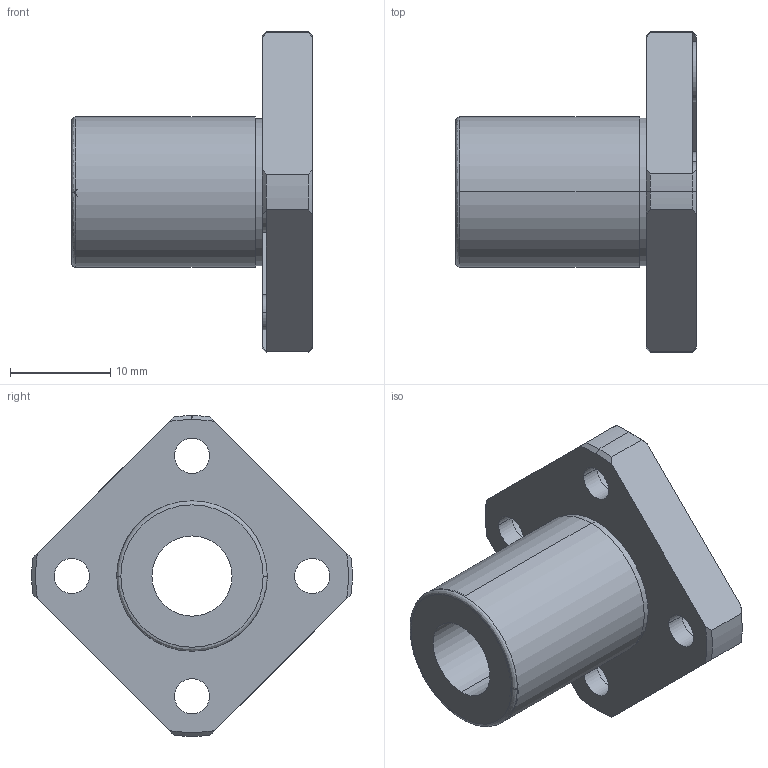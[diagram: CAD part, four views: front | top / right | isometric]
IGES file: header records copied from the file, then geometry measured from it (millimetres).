
Start section: 3D InterOp IGES (Version 21 0 1), Spatial Corp. Copyright (c) 1999-2007.
Global section: file name: NF-8TVUU.igs; native system: Spatial Corp.; preprocessor: 3D InterOp GENERIC/IGES 3.0; author: Noname; organization: Noname; date: 20220308.154422; units: millimetre
Bounding box: 24 x 31.98 x 31.99 mm (x, y, z)
Surface area: 3501 mm2 (no closed solid volume)
Topology: 0 solids, 0 shells, 51 faces, 260 edges, 258 vertices
Faces by surface type: revolution 39, extrusion 12
